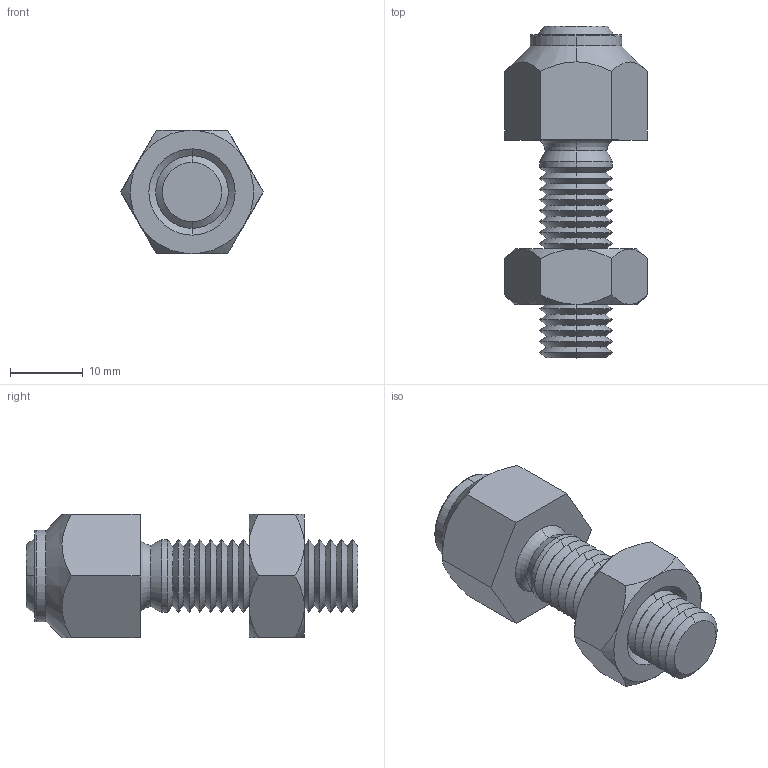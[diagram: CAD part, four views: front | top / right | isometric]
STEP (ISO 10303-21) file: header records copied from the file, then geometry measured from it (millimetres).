
FILE_DESCRIPTION (( 'STEP AP203' ), '1' );
FILE_NAME ('34120.W0016.step', '2017-03-27T09:19:42', ( 'User' ), ( '' ), 'SwSTEP 2.0', 'SolidWorks 2009', '' );
FILE_SCHEMA (( 'CONFIG_CONTROL_DESIGN' ));
Length unit declared in the file: millimetre
Products named in the file (4): 34120.W0016; Part1_34120.W0016; Part2_34120.W0016; Part3_34120.W0016
Assembly tree (3 placements, depth 2):
  34120.W0016
    Part3_34120.W0016
    Part2_34120.W0016
    Part1_34120.W0016
Bounding box: 19.63 x 45.7 x 17 mm (x, y, z)
Volume: 6516.4 mm3; surface area: 4164.8 mm2
Topology: 3 solids, 3 shells, 130 faces, 280 edges, 154 vertices
Faces by surface type: cone 90, plane 20, cylinder 8, torus 8, sphere 4
Entity records: 3974 total; most frequent: CARTESIAN_POINT 794, DIRECTION 644, ORIENTED_EDGE 540, EDGE_CURVE 270, AXIS2_PLACEMENT_3D 270, VERTEX_POINT 148, EDGE_LOOP 134, CIRCLE 134
